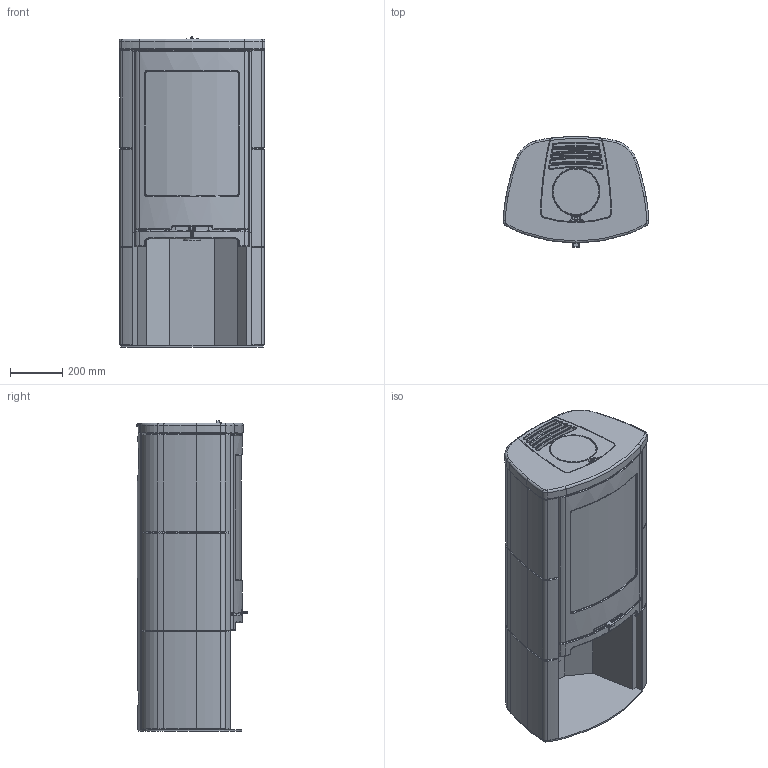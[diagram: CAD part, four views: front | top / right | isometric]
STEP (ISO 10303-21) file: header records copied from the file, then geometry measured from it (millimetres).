
FILE_DESCRIPTION(/* description */ ('Unknown'),/* implementation_level */ '2;1');
FILE_NAME(/* name */ 'C720T Assembly',/* time_stamp */ '2017-10-26T16:17:12+02:00',/* author */ ('Unknown'),/* organization */ ('NIBE AB/Contura'),/* preprocessor_version */ 'ST-DEVELOPER v16.7',/* originating_system */ 'DEX',/* authorisation */ $);
FILE_SCHEMA (('AUTOMOTIVE_DESIGN {1 0 10303 214 3 1 1}'));
Length unit declared in the file: millimetre
Products named in the file (9): DSN1019906; Door C700; Glass C790; Vermiculite C790; DSN1019909; DSN1019908; DSN1019907; Fire C700; Soapstone top C790T
Assembly tree (8 placements, depth 2):
  DSN1019906
    Door C700
    Glass C790
    Vermiculite C790
    DSN1019909
    DSN1019908
    DSN1019907
    Fire C700
    Soapstone top C790T
Bounding box: 556.17 x 421.69 x 1185.1 mm (x, y, z)
Volume: 170656671.1 mm3; surface area: 8613989.8 mm2
Topology: 15 solids, 16 shells, 988 faces, 2440 edges, 1479 vertices
Faces by surface type: plane 293, cylinder 248, bspline 230, cone 132, torus 68, sphere 17
Full cylindrical faces by diameter (mm): 5 x6, 10.1 x2, 15 x1, 65 x1, 150 x2, 168 x3, 170 x2, 204 x1, 208 x1
Entity records: 41561 total; most frequent: CARTESIAN_POINT 18580, ORIENTED_EDGE 4730, DIRECTION 4033, EDGE_CURVE 2365, AXIS2_PLACEMENT_3D 1527, VERTEX_POINT 1457, EDGE_LOOP 1086, FACE_BOUND 1086
